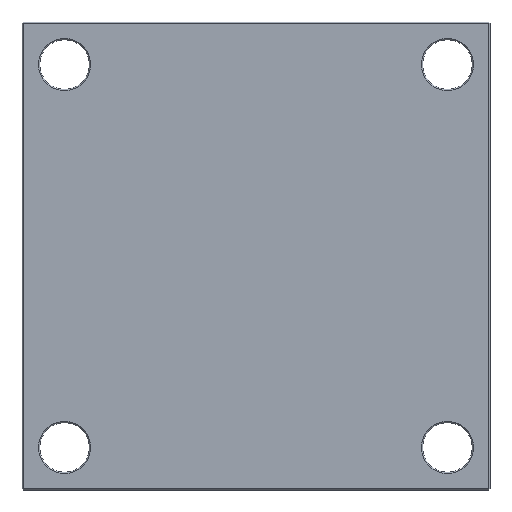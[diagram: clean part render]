
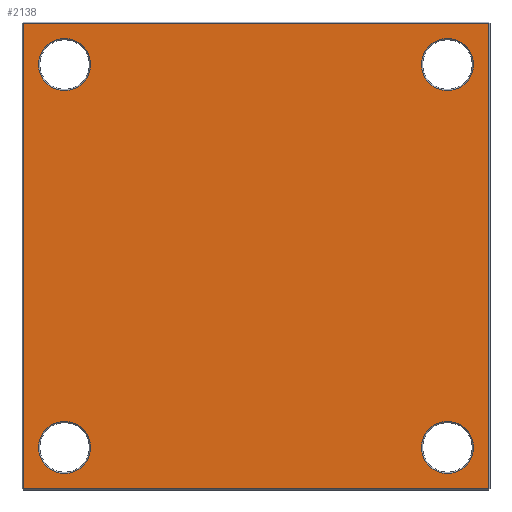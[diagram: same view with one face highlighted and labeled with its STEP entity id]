
A CAD part, front view. The second image highlights one B-rep face of the part: STEP entity #2138.
In plain terms, the highlighted planar face has unit normal (0, -1, 0).
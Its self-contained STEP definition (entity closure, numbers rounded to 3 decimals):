
#5 = CARTESIAN_POINT ( 'NONE',  ( 0., 0., 197. ) ) ;
#10 = DIRECTION ( 'NONE',  ( 0., 0., 1. ) ) ;
#16 = EDGE_CURVE ( 'NONE', #1072, #1698, #18, .T. ) ;
#18 = CIRCLE ( 'NONE', #1839, 22. ) ;
#37 = DIRECTION ( 'NONE',  ( 0., 1., 0. ) ) ;
#47 = VECTOR ( 'NONE', #133, 1000. ) ;
#52 = EDGE_CURVE ( 'NONE', #1396, #1337, #1241, .T. ) ;
#97 = EDGE_CURVE ( 'NONE', #873, #1008, #1663, .T. ) ;
#111 = DIRECTION ( 'NONE',  ( 0., 0., 1. ) ) ;
#115 = EDGE_LOOP ( 'NONE', ( #1327, #666 ) ) ;
#133 = DIRECTION ( 'NONE',  ( -1., 0., 0. ) ) ;
#174 = EDGE_CURVE ( 'NONE', #969, #892, #2059, .T. ) ;
#209 = CARTESIAN_POINT ( 'NONE',  ( -197., 0., -197. ) ) ;
#254 = ORIENTED_EDGE ( 'NONE', *, *, #1806, .T. ) ;
#280 = ORIENTED_EDGE ( 'NONE', *, *, #2028, .T. ) ;
#282 = VECTOR ( 'NONE', #1674, 1000. ) ;
#297 = DIRECTION ( 'NONE',  ( 0., 1., 0. ) ) ;
#333 = CARTESIAN_POINT ( 'NONE',  ( -162., 0., -162. ) ) ;
#334 = CARTESIAN_POINT ( 'NONE',  ( -162., 0., 184. ) ) ;
#361 = LINE ( 'NONE', #469, #1174 ) ;
#362 = EDGE_CURVE ( 'NONE', #1698, #1072, #1356, .T. ) ;
#420 = ORIENTED_EDGE ( 'NONE', *, *, #700, .T. ) ;
#456 = DIRECTION ( 'NONE',  ( 1., 0., 0. ) ) ;
#462 = CARTESIAN_POINT ( 'NONE',  ( -162., 0., -140. ) ) ;
#469 = CARTESIAN_POINT ( 'NONE',  ( 0., 0., -197. ) ) ;
#533 = VERTEX_POINT ( 'NONE', #682 ) ;
#563 = LINE ( 'NONE', #1318, #959 ) ;
#578 = DIRECTION ( 'NONE',  ( 0., 1., 0. ) ) ;
#587 = ORIENTED_EDGE ( 'NONE', *, *, #1194, .T. ) ;
#607 = ORIENTED_EDGE ( 'NONE', *, *, #52, .T. ) ;
#610 = ORIENTED_EDGE ( 'NONE', *, *, #2060, .T. ) ;
#650 = DIRECTION ( 'NONE',  ( 0., 0., 1. ) ) ;
#665 = CIRCLE ( 'NONE', #1220, 22. ) ;
#666 = ORIENTED_EDGE ( 'NONE', *, *, #1426, .T. ) ;
#682 = CARTESIAN_POINT ( 'NONE',  ( -197., 0., 197. ) ) ;
#687 = VERTEX_POINT ( 'NONE', #1983 ) ;
#700 = EDGE_CURVE ( 'NONE', #1673, #533, #1834, .T. ) ;
#731 = AXIS2_PLACEMENT_3D ( 'NONE', #1414, #1602, #797 ) ;
#778 = LINE ( 'NONE', #1692, #282 ) ;
#781 = CARTESIAN_POINT ( 'NONE',  ( -162., 0., -184. ) ) ;
#797 = DIRECTION ( 'NONE',  ( 0., 0., 1. ) ) ;
#854 = DIRECTION ( 'NONE',  ( 0., 1., 0. ) ) ;
#859 = FACE_BOUND ( 'NONE', #1984, .T. ) ;
#873 = VERTEX_POINT ( 'NONE', #1726 ) ;
#892 = VERTEX_POINT ( 'NONE', #1809 ) ;
#908 = FACE_BOUND ( 'NONE', #1693, .T. ) ;
#959 = VECTOR ( 'NONE', #1262, 1000. ) ;
#969 = VERTEX_POINT ( 'NONE', #1654 ) ;
#1008 = VERTEX_POINT ( 'NONE', #1634 ) ;
#1014 = ORIENTED_EDGE ( 'NONE', *, *, #1610, .T. ) ;
#1072 = VERTEX_POINT ( 'NONE', #781 ) ;
#1090 = DIRECTION ( 'NONE',  ( 0., 0., 1. ) ) ;
#1120 = CIRCLE ( 'NONE', #1742, 22. ) ;
#1136 = AXIS2_PLACEMENT_3D ( 'NONE', #2108, #1528, #1804 ) ;
#1174 = VECTOR ( 'NONE', #456, 1000. ) ;
#1194 = EDGE_CURVE ( 'NONE', #687, #1673, #563, .T. ) ;
#1220 = AXIS2_PLACEMENT_3D ( 'NONE', #2078, #1929, #1917 ) ;
#1224 = FACE_BOUND ( 'NONE', #1502, .T. ) ;
#1241 = CIRCLE ( 'NONE', #1706, 22. ) ;
#1262 = DIRECTION ( 'NONE',  ( 0., 0., 1. ) ) ;
#1270 = FACE_BOUND ( 'NONE', #115, .T. ) ;
#1306 = CARTESIAN_POINT ( 'NONE',  ( 197., 0., 197. ) ) ;
#1318 = CARTESIAN_POINT ( 'NONE',  ( 197., 0., 0. ) ) ;
#1327 = ORIENTED_EDGE ( 'NONE', *, *, #97, .T. ) ;
#1337 = VERTEX_POINT ( 'NONE', #2010 ) ;
#1356 = CIRCLE ( 'NONE', #1136, 22. ) ;
#1396 = VERTEX_POINT ( 'NONE', #334 ) ;
#1414 = CARTESIAN_POINT ( 'NONE',  ( 0., 0., 0. ) ) ;
#1426 = EDGE_CURVE ( 'NONE', #1008, #873, #1120, .T. ) ;
#1497 = AXIS2_PLACEMENT_3D ( 'NONE', #1570, #2174, #1090 ) ;
#1502 = EDGE_LOOP ( 'NONE', ( #1616, #1014 ) ) ;
#1512 = EDGE_LOOP ( 'NONE', ( #587, #420, #280, #254 ) ) ;
#1514 = VERTEX_POINT ( 'NONE', #209 ) ;
#1528 = DIRECTION ( 'NONE',  ( 0., 1., 0. ) ) ;
#1567 = AXIS2_PLACEMENT_3D ( 'NONE', #1813, #37, #10 ) ;
#1570 = CARTESIAN_POINT ( 'NONE',  ( 162., 0., -162. ) ) ;
#1596 = PLANE ( 'NONE',  #731 ) ;
#1602 = DIRECTION ( 'NONE',  ( 0., 1., 0. ) ) ;
#1610 = EDGE_CURVE ( 'NONE', #892, #969, #1990, .T. ) ;
#1616 = ORIENTED_EDGE ( 'NONE', *, *, #174, .T. ) ;
#1634 = CARTESIAN_POINT ( 'NONE',  ( 162., 0., 184. ) ) ;
#1654 = CARTESIAN_POINT ( 'NONE',  ( 162., 0., -184. ) ) ;
#1663 = CIRCLE ( 'NONE', #1567, 22. ) ;
#1673 = VERTEX_POINT ( 'NONE', #1306 ) ;
#1674 = DIRECTION ( 'NONE',  ( 0., 0., -1. ) ) ;
#1692 = CARTESIAN_POINT ( 'NONE',  ( -197., 0., 0. ) ) ;
#1693 = EDGE_LOOP ( 'NONE', ( #610, #607 ) ) ;
#1698 = VERTEX_POINT ( 'NONE', #462 ) ;
#1706 = AXIS2_PLACEMENT_3D ( 'NONE', #2066, #854, #111 ) ;
#1709 = ORIENTED_EDGE ( 'NONE', *, *, #16, .T. ) ;
#1726 = CARTESIAN_POINT ( 'NONE',  ( 162., 0., 140. ) ) ;
#1742 = AXIS2_PLACEMENT_3D ( 'NONE', #2171, #1951, #2160 ) ;
#1752 = ORIENTED_EDGE ( 'NONE', *, *, #362, .T. ) ;
#1804 = DIRECTION ( 'NONE',  ( 0., 0., 1. ) ) ;
#1806 = EDGE_CURVE ( 'NONE', #1514, #687, #361, .T. ) ;
#1809 = CARTESIAN_POINT ( 'NONE',  ( 162., 0., -140. ) ) ;
#1813 = CARTESIAN_POINT ( 'NONE',  ( 162., 0., 162. ) ) ;
#1824 = DIRECTION ( 'NONE',  ( 0., 0., 1. ) ) ;
#1834 = LINE ( 'NONE', #5, #47 ) ;
#1839 = AXIS2_PLACEMENT_3D ( 'NONE', #333, #578, #650 ) ;
#1917 = DIRECTION ( 'NONE',  ( 0., 0., 1. ) ) ;
#1929 = DIRECTION ( 'NONE',  ( 0., 1., 0. ) ) ;
#1951 = DIRECTION ( 'NONE',  ( 0., 1., 0. ) ) ;
#1983 = CARTESIAN_POINT ( 'NONE',  ( 197., 0., -197. ) ) ;
#1984 = EDGE_LOOP ( 'NONE', ( #1709, #1752 ) ) ;
#1990 = CIRCLE ( 'NONE', #2056, 22. ) ;
#2010 = CARTESIAN_POINT ( 'NONE',  ( -162., 0., 140. ) ) ;
#2028 = EDGE_CURVE ( 'NONE', #533, #1514, #778, .T. ) ;
#2056 = AXIS2_PLACEMENT_3D ( 'NONE', #2154, #297, #1824 ) ;
#2059 = CIRCLE ( 'NONE', #1497, 22. ) ;
#2060 = EDGE_CURVE ( 'NONE', #1337, #1396, #665, .T. ) ;
#2066 = CARTESIAN_POINT ( 'NONE',  ( -162., 0., 162. ) ) ;
#2078 = CARTESIAN_POINT ( 'NONE',  ( -162., 0., 162. ) ) ;
#2108 = CARTESIAN_POINT ( 'NONE',  ( -162., 0., -162. ) ) ;
#2122 = FACE_OUTER_BOUND ( 'NONE', #1512, .T. ) ;
#2138 = ADVANCED_FACE ( 'NONE', ( #859, #1224, #1270, #908, #2122 ), #1596, .F. ) ;
#2154 = CARTESIAN_POINT ( 'NONE',  ( 162., 0., -162. ) ) ;
#2160 = DIRECTION ( 'NONE',  ( 0., 0., 1. ) ) ;
#2171 = CARTESIAN_POINT ( 'NONE',  ( 162., 0., 162. ) ) ;
#2174 = DIRECTION ( 'NONE',  ( 0., 1., 0. ) ) ;
